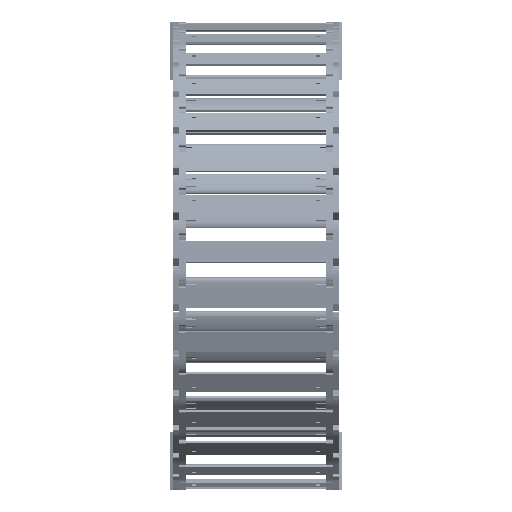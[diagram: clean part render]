
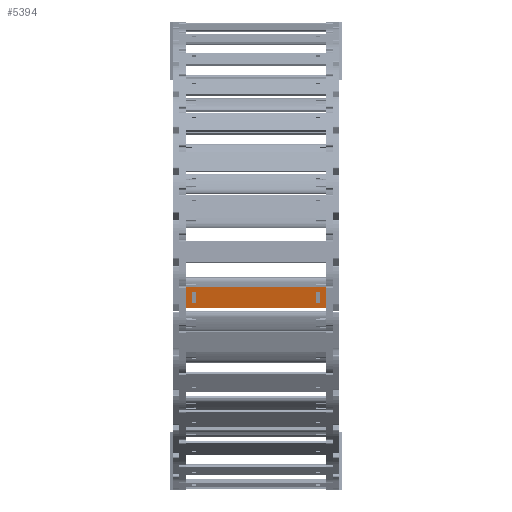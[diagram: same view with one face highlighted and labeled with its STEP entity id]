
A CAD part, left-side view. The second image highlights one B-rep face of the part: STEP entity #5394.
In plain terms, the highlighted planar face has unit normal (-0.984, 0, -0.177) as drawn and (0, 1, 0) by its records, which use the part's own axes.
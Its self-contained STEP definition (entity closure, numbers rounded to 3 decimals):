
#4814=DIRECTION('',(0.,0.,1.));
#4815=VECTOR('',#4814,15.8);
#4816=CARTESIAN_POINT('',(88.74,1.5,-7.9));
#4817=LINE('',#4816,#4815);
#4818=DIRECTION('',(-1.,0.,0.));
#4819=VECTOR('',#4818,103.5);
#4820=CARTESIAN_POINT('',(88.74,1.5,7.9));
#4821=LINE('',#4820,#4819);
#4822=DIRECTION('',(0.,0.,-1.));
#4823=VECTOR('',#4822,15.8);
#4824=CARTESIAN_POINT('',(-14.76,1.5,7.9));
#4825=LINE('',#4824,#4823);
#4826=DIRECTION('',(1.,0.,0.));
#4827=VECTOR('',#4826,3.648);
#4828=CARTESIAN_POINT('',(81.122,1.5,4.075));
#4829=LINE('',#4828,#4827);
#4830=DIRECTION('',(0.,0.,-1.));
#4831=VECTOR('',#4830,8.15);
#4832=CARTESIAN_POINT('',(84.77,1.5,4.075));
#4833=LINE('',#4832,#4831);
#4834=DIRECTION('',(-1.,0.,0.));
#4835=VECTOR('',#4834,3.648);
#4836=CARTESIAN_POINT('',(84.77,1.5,-4.075));
#4837=LINE('',#4836,#4835);
#4838=DIRECTION('',(0.,0.,-1.));
#4839=VECTOR('',#4838,8.15);
#4840=CARTESIAN_POINT('',(-7.142,1.5,4.075));
#4841=LINE('',#4840,#4839);
#4842=DIRECTION('',(-1.,0.,0.));
#4843=VECTOR('',#4842,3.648);
#4844=CARTESIAN_POINT('',(-7.142,1.5,-4.075));
#4845=LINE('',#4844,#4843);
#4846=DIRECTION('',(0.,0.,1.));
#4847=VECTOR('',#4846,8.15);
#4848=CARTESIAN_POINT('',(-10.79,1.5,-4.075));
#4849=LINE('',#4848,#4847);
#4850=DIRECTION('',(1.,0.,0.));
#4851=VECTOR('',#4850,3.648);
#4852=CARTESIAN_POINT('',(-10.79,1.5,4.075));
#4853=LINE('',#4852,#4851);
#4858=DIRECTION('',(-1.,0.,0.));
#4859=VECTOR('',#4858,103.5);
#4860=CARTESIAN_POINT('',(88.74,1.5,-7.9));
#4861=LINE('',#4860,#4859);
#4979=DIRECTION('',(0.,0.,-1.));
#4980=VECTOR('',#4979,8.15);
#4981=CARTESIAN_POINT('',(81.122,1.5,4.075));
#4982=LINE('',#4981,#4980);
#5164=CARTESIAN_POINT('',(84.77,1.5,4.075));
#5165=VERTEX_POINT('',#5164);
#5166=CARTESIAN_POINT('',(81.122,1.5,4.075));
#5167=VERTEX_POINT('',#5166);
#5208=CARTESIAN_POINT('',(81.122,1.5,-4.075));
#5209=VERTEX_POINT('',#5208);
#5210=CARTESIAN_POINT('',(84.77,1.5,-4.075));
#5211=VERTEX_POINT('',#5210);
#5212=CARTESIAN_POINT('',(88.74,1.5,7.9));
#5214=VERTEX_POINT('',#5212);
#5216=CARTESIAN_POINT('',(88.74,1.5,-7.9));
#5217=VERTEX_POINT('',#5216);
#5240=CARTESIAN_POINT('',(-7.142,1.5,4.075));
#5241=CARTESIAN_POINT('',(-7.142,1.5,-4.075));
#5242=VERTEX_POINT('',#5240);
#5243=VERTEX_POINT('',#5241);
#5244=CARTESIAN_POINT('',(-10.79,1.5,-4.075));
#5245=VERTEX_POINT('',#5244);
#5246=CARTESIAN_POINT('',(-10.79,1.5,4.075));
#5247=VERTEX_POINT('',#5246);
#5248=CARTESIAN_POINT('',(-14.76,1.5,7.9));
#5249=VERTEX_POINT('',#5248);
#5252=CARTESIAN_POINT('',(-14.76,1.5,-7.9));
#5253=VERTEX_POINT('',#5252);
#5363=CARTESIAN_POINT('',(120.48,1.5,10.061));
#5364=DIRECTION('',(0.,-1.,0.));
#5365=DIRECTION('',(0.,0.,-1.));
#5366=AXIS2_PLACEMENT_3D('',#5363,#5364,#5365);
#5367=PLANE('',#5366);
#5368=ORIENTED_EDGE('',*,*,#5302,.T.);
#5369=ORIENTED_EDGE('',*,*,#5328,.T.);
#5370=ORIENTED_EDGE('',*,*,#5341,.T.);
#5372=ORIENTED_EDGE('',*,*,#5371,.F.);
#5373=EDGE_LOOP('',(#5368,#5369,#5370,#5372));
#5374=FACE_OUTER_BOUND('',#5373,.F.);
#5376=ORIENTED_EDGE('',*,*,#5375,.F.);
#5377=ORIENTED_EDGE('',*,*,#5265,.T.);
#5379=ORIENTED_EDGE('',*,*,#5378,.T.);
#5381=ORIENTED_EDGE('',*,*,#5380,.T.);
#5382=EDGE_LOOP('',(#5376,#5377,#5379,#5381));
#5383=FACE_BOUND('',#5382,.F.);
#5385=ORIENTED_EDGE('',*,*,#5384,.T.);
#5387=ORIENTED_EDGE('',*,*,#5386,.T.);
#5389=ORIENTED_EDGE('',*,*,#5388,.T.);
#5391=ORIENTED_EDGE('',*,*,#5390,.T.);
#5392=EDGE_LOOP('',(#5385,#5387,#5389,#5391));
#5393=FACE_BOUND('',#5392,.F.);
#5394=ADVANCED_FACE('',(#5374,#5383,#5393),#5367,.F.);
#5265=EDGE_CURVE('',#5167,#5165,#4829,.T.);
#5302=EDGE_CURVE('',#5217,#5214,#4817,.T.);
#5328=EDGE_CURVE('',#5214,#5249,#4821,.T.);
#5341=EDGE_CURVE('',#5249,#5253,#4825,.T.);
#5371=EDGE_CURVE('',#5217,#5253,#4861,.T.);
#5375=EDGE_CURVE('',#5167,#5209,#4982,.T.);
#5378=EDGE_CURVE('',#5165,#5211,#4833,.T.);
#5380=EDGE_CURVE('',#5211,#5209,#4837,.T.);
#5384=EDGE_CURVE('',#5242,#5243,#4841,.T.);
#5386=EDGE_CURVE('',#5243,#5245,#4845,.T.);
#5388=EDGE_CURVE('',#5245,#5247,#4849,.T.);
#5390=EDGE_CURVE('',#5247,#5242,#4853,.T.);
